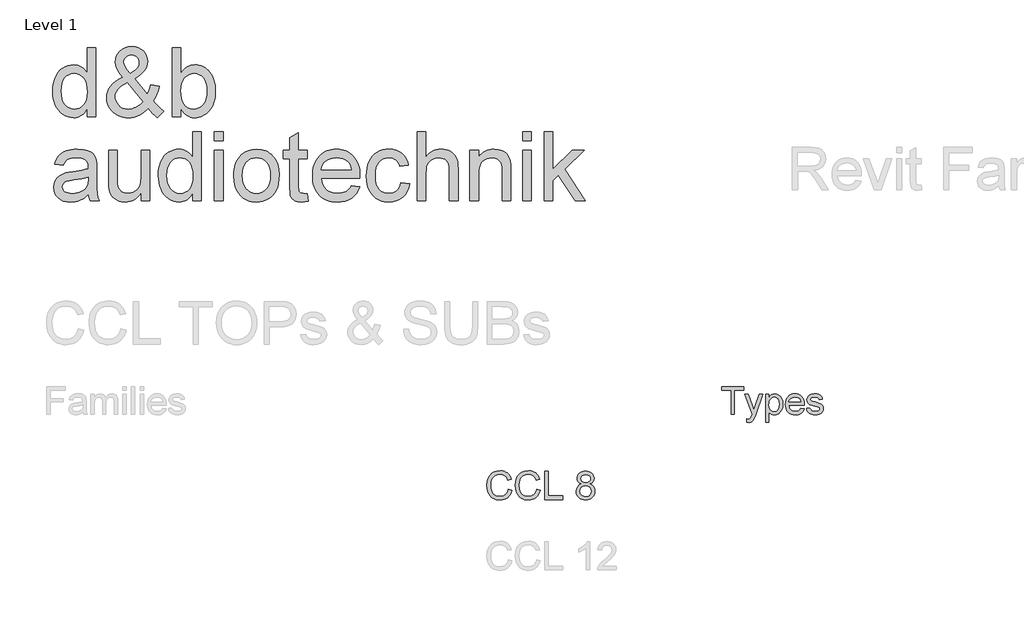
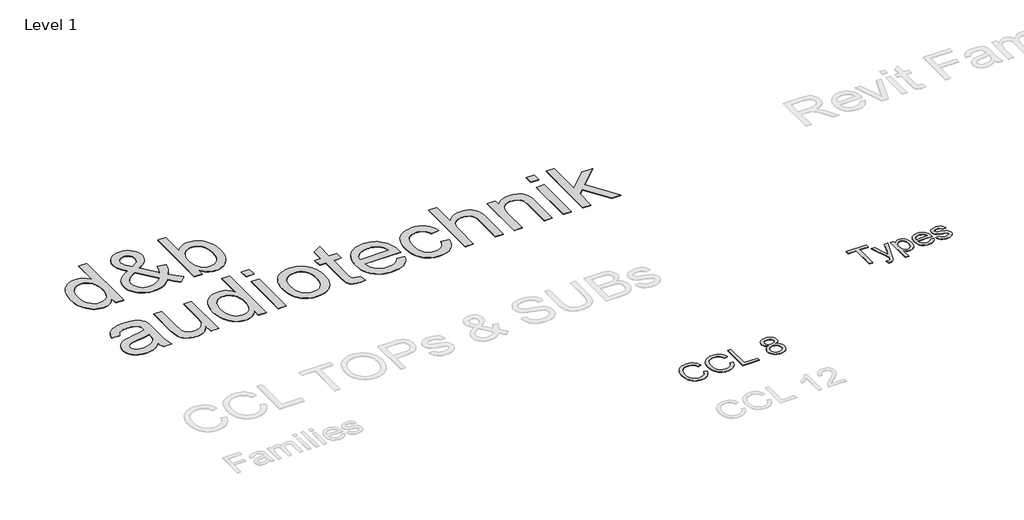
# One storey, part 24 of 31: 3 proxies.
"""IFC4 building model written with IfcOpenShell, lengths in millimetres."""

from ifc_helpers import new_model, si_unit, origin, origin_with_axes, place, context, project, spatial, polyline, outline, extrude, element, save

model = new_model("IFC4")

# Units and contexts
model_context = context("Model", 3, world=origin())
ifc_project = project(units=[si_unit("LENGTHUNIT", "METRE", prefix="MILLI")], contexts=[model_context])

# Site, building, storey
site = spatial("IfcSite", under=ifc_project)
building = spatial("IfcBuilding", under=site)
storey = spatial("IfcBuildingStorey", under=building, Name="Level 1", Elevation=0.0)

# Proxies
placement = place(None, origin())
element("IfcBuildingElementProxy", 1, Name="1000mm Arial", ObjectType="1000mm Arial", at=placement, inside=storey, context=model_context, shape_type="SweptSolid", body=[
    extrude(outline(polyline([(-20485.0918031, 21579.111869), (-20485.0918031, 21694.6019258), (-20502.4384754, 21663.947296), (-20521.720443, 21637.3799502), (-20542.937706, 21614.8998883), (-20566.0902643, 21596.5071105), (-20591.1781179, 21582.2016166), (-20618.2012669, 21571.9834066), (-20647.1597112, 21565.8524807), (-20678.0534508, 21563.8088387), (-20718.4630152, 21566.7678231), (-20757.1988107, 21575.6447762), (-20794.2608372, 21590.4396981), (-20829.6490948, 21611.1525887), (-20862.2577004, 21637.1632569), (-20890.9807709, 21667.8515115), (-20915.8183064, 21703.2173525), (-20936.7703069, 21743.26078), (-20953.4033857, 21787.2196312), (-20965.2841563, 21834.3317435), (-20972.4126187, 21884.597117), (-20974.7887728, 21938.0157516), (-20972.5994233, 21990.4555302), (-20966.0313746, 22040.4145442), (-20955.0846269, 22087.8927935), (-20939.75918, 22132.8902781), (-20920.0625062, 22174.0918939), (-20896.0020777, 22210.1825366), (-20867.5778945, 22241.1622064), (-20834.7899565, 22267.0309031), (-20798.7964521, 22287.429962), (-20760.7555697, 22302.0007184), (-20720.6673091, 22310.7431723), (-20678.5316705, 22313.6573235), (-20647.7163888, 22311.5725845), (-20618.6346535, 22305.3183676), (-20591.2864646, 22294.8946726), (-20565.671822, 22280.3014997), (-20542.0746689, 22262.3757332), (-20520.778948, 22241.9542577), (-20501.7846594, 22219.0370732), (-20485.0918031, 22193.6241796), (-20485.0918031, 22558.5058084), (-20362.6675607, 22558.5058084), (-20362.6675607, 21579.111869), (-20485.0918031, 21579.111869)]), holes=[polyline([(-20852.3645304, 21938.4939713), (-20848.9123819, 21879.1274792), (-20838.5559366, 21827.7562227), (-20821.2951944, 21784.3802017), (-20797.1301554, 21748.9994163), (-20768.2725855, 21721.5391447), (-20736.934251, 21701.9246649), (-20703.1151518, 21690.1559771), (-20666.815288, 21686.2330811), (-20630.3435639, 21689.9766447), (-20596.7262136, 21701.2073354), (-20565.9632372, 21719.9251532), (-20538.0546345, 21746.1300982), (-20514.8833958, 21780.0313914), (-20498.332511, 21821.8382539), (-20488.4019801, 21871.5506859), (-20485.0918031, 21929.1686872), (-20488.4617575, 21992.3385203), (-20498.5716208, 22046.5118453), (-20515.4213929, 22091.6886623), (-20539.0110739, 22127.8689713), (-20567.5323956, 22155.5907693), (-20599.1770896, 22175.3920537), (-20633.945156, 22187.2728242), (-20671.8365948, 22191.2330811), (-20708.8537882, 22187.4297401), (-20742.6728874, 22176.019717), (-20773.2938924, 22157.0030119), (-20800.7168031, 22130.3796247), (-20823.3126838, 22095.5667252), (-20839.4525986, 22051.9814831), (-20849.1365474, 21999.6238985), (-20852.3645304, 21938.4939713)])]), origin_with_axes(), (0.0, 0.0, 1.0), 5.0),
    extrude(outline(polyline([(-19617.362163, 21700.1014523), (-19647.8038355, 21668.157871), (-19679.590501, 21640.4734339), (-19712.7221594, 21617.0481409), (-19747.1988107, 21597.8819921), (-19783.0503436, 21582.9749875), (-19820.3066469, 21572.327127), (-19858.9677205, 21565.9384108), (-19899.0335645, 21563.8088387), (-19935.7219818, 21565.3854693), (-19970.4676317, 21570.1153609), (-20003.270514, 21577.9985138), (-20034.1306289, 21589.0349277), (-20063.0479762, 21603.2246028), (-20090.0225559, 21620.567539), (-20115.0543682, 21641.0637363), (-20138.143413, 21664.7131948), (-20169.42197, 21707.0505823), (-20191.7637965, 21751.8089571), (-20205.1688924, 21798.988319), (-20209.6372577, 21848.5886682), (-20206.0431377, 21892.569936), (-20195.260778, 21934.3693264), (-20177.2901785, 21973.9868394), (-20152.1313391, 22011.4224751), (-20119.829093, 22046.661289), (-20080.4282733, 22079.6883368), (-20033.9288799, 22110.5036185), (-19980.330913, 22139.1071341), (-20033.7420754, 22208.2098804), (-20065.8126838, 22262.9660357), (-20081.8629324, 22309.712011), (-20087.2130152, 22354.7842175), (-20082.9987041, 22397.569936), (-20070.3557709, 22437.4564476), (-20049.2842155, 22474.4437523), (-20019.784038, 22508.5318501), (-19983.9026163, 22537.0905326), (-19943.6873287, 22557.4895915), (-19899.138175, 22569.7290269), (-19850.2551554, 22573.8088387), (-19803.5839018, 22569.9083593), (-19761.3660692, 22558.2069211), (-19723.6016575, 22538.7045241), (-19690.2906667, 22511.4011682), (-19663.0919215, 22478.6281746), (-19643.6642463, 22442.7168643), (-19632.0076412, 22403.6672371), (-19628.1221061, 22361.4792932), (-19630.9988965, 22326.7336434), (-19639.6292676, 22293.273209), (-19654.0132194, 22261.09799), (-19674.150752, 22230.2079864), (-19700.0418653, 22200.6031983), (-19731.6865593, 22172.2836256), (-19769.084834, 22145.2492684), (-19812.2366895, 22119.5001266), (-19635.0562917, 21898.8017364), (-19604.8686734, 21961.866959), (-19582.2130152, 22034.3770205), (-19459.7887728, 22007.8358273), (-19477.213903, 21947.9836434), (-19497.4485739, 21894.4379817), (-19520.4927856, 21847.1988422), (-19546.346538, 21806.2662251), (-19512.6320493, 21763.9138931), (-19476.765572, 21725.0884315), (-19438.7471061, 21689.7898401), (-19398.5766516, 21658.018119), (-19490.3948334, 21563.8088387), (-19521.3745032, 21589.6327023), (-19552.8622813, 21620.9560925), (-19617.362163, 21700.1014523)]), holes=[polyline([(-19874.1661402, 22196.7326076), (-19810.1444783, 22237.3513931), (-19788.4004264, 22255.6657131), (-19773.500894, 22272.6499845), (-19756.2849849, 22306.9921365), (-19750.5463486, 22344.7416038), (-19752.4368108, 22367.2104574), (-19758.1081975, 22387.512378), (-19767.5605087, 22405.6473656), (-19780.7937444, 22421.6154201), (-19796.8664095, 22434.6394347), (-19814.8370091, 22443.9423022), (-19834.705543, 22449.5240228), (-19856.4720114, 22451.3845963), (-19878.7017552, 22449.5389671), (-19899.0036757, 22444.0020797), (-19917.3777732, 22434.773934), (-19933.8240474, 22421.85453), (-19947.3711148, 22406.2750289), (-19957.0475915, 22389.066592), (-19962.8534775, 22370.2292193), (-19964.7887728, 22349.7629107), (-19962.1585645, 22327.9142483), (-19954.2679395, 22304.9298141), (-19941.0571203, 22280.6900532), (-19922.4663296, 22255.0754107), (-19874.1661402, 22196.7326076)]), polyline([(-19699.376841, 21788.3329864), (-19917.9232425, 22061.1573235), (-19963.7202507, 22034.0333001), (-20001.4024684, 22007.8956048), (-20030.9698956, 21982.7442376), (-20052.4225323, 21958.5791985), (-20067.6433686, 21934.967101), (-20078.5153945, 21911.4745584), (-20085.03861, 21888.1015707), (-20087.2130152, 21864.8481379), (-20084.2390865, 21836.2446223), (-20075.3173003, 21807.1031095), (-20060.4476566, 21777.4235996), (-20039.6301554, 21747.2060925), (-20013.3579608, 21720.5304), (-19982.1242368, 21701.476334), (-19945.9289835, 21690.0438943), (-19904.7722008, 21686.2330811), (-19877.2969848, 21688.0114606), (-19849.3883822, 21693.3465991), (-19821.0463929, 21702.2384966), (-19792.2710171, 21714.6871531), (-19764.7210793, 21729.9602947), (-19740.055404, 21747.3256474), (-19718.2739912, 21766.7832113), (-19699.376841, 21788.3329864)])]), origin_with_axes(), (0.0, 0.0, 1.0), 5.0),
    extrude(outline(polyline([(-19153.7281667, 21579.111869), (-19276.1524092, 21579.111869), (-19276.1524092, 22558.5058084), (-19153.7281667, 22558.5058084), (-19153.7281667, 22195.2979485), (-19134.2481863, 22223.0384271), (-19113.468046, 22247.0801751), (-19091.3877459, 22267.4231927), (-19068.0072861, 22284.0674798), (-19043.3266664, 22297.0130364), (-19017.3458869, 22306.2598626), (-18990.0649476, 22311.8079583), (-18961.4838486, 22313.6573235), (-18929.5178507, 22311.9910268), (-18898.418626, 22306.9921365), (-18868.1861746, 22298.6606527), (-18838.8204963, 22286.9965754), (-18811.1734201, 22272.3137363), (-18786.0967747, 22254.925967), (-18763.5905602, 22234.8332675), (-18743.6547766, 22212.0356379), (-18710.3886189, 22158.7440305), (-18685.1924186, 22095.4695868), (-18669.3215024, 22024.8425153), (-18664.031197, 21949.4930243), (-18669.508307, 21862.5467056), (-18676.3546945, 21822.9964423), (-18685.9396369, 21786.0614429), (-18698.2631343, 21751.7417074), (-18713.3251867, 21720.0372359), (-18731.1257941, 21690.9480284), (-18751.6649565, 21664.4740849), (-18797.6861302, 21620.4330397), (-18822.3499374, 21603.1312005), (-18848.1158916, 21588.9751502), (-18874.9839928, 21577.9648889), (-18902.954241, 21570.1004166), (-18932.0266361, 21565.3817332), (-18962.2011781, 21563.8088387), (-18991.8694798, 21565.8375363), (-19019.9013734, 21571.9236292), (-19046.296859, 21582.0671173), (-19071.0559366, 21596.2680006), (-19094.1786062, 21614.5262792), (-19115.6648677, 21636.841953), (-19135.5147213, 21663.2150221), (-19153.7281667, 21693.6454864), (-19153.7281667, 21579.111869)]), holes=[polyline([(-19153.7281667, 21943.7543879), (-19151.6359556, 21888.5797904), (-19145.359322, 21841.6544826), (-19134.8982662, 21802.9784646), (-19120.252788, 21772.5517364), (-19090.5882224, 21734.7873247), (-19056.1115711, 21707.8127449), (-19016.8228341, 21691.6279971), (-18972.7220114, 21686.2330811), (-18936.1083159, 21690.2082823), (-18902.0650512, 21702.133886), (-18870.5922174, 21722.0098922), (-18841.6898145, 21749.8363008), (-18817.5247754, 21785.5383901), (-18800.2640332, 21829.0414381), (-18789.9075879, 21880.345445), (-18786.4554395, 21939.4504107), (-18789.7656164, 21999.6762037), (-18799.6961473, 22051.4733747), (-18816.2470322, 22094.8419234), (-18839.4182709, 22129.7818501), (-18867.2820404, 22156.6667636), (-18897.9105176, 22175.8702733), (-18931.3037024, 22187.3923792), (-18967.4615948, 22191.2330811), (-19004.0752903, 22187.2578799), (-19038.118555, 22175.3322762), (-19069.5913888, 22155.45627), (-19098.4937917, 22127.6298614), (-19122.6588308, 22092.2864369), (-19139.919573, 22049.8593832), (-19150.2760183, 22000.3487002), (-19153.7281667, 21943.7543879)])]), origin_with_axes(), (0.0, 0.0, 1.0), 5.0),
    extrude(outline(polyline([(-20469.7887728, 20473.9603538), (-20498.8182028, 20446.7167755), (-20528.2810195, 20423.8070631), (-20558.1772227, 20405.2312168), (-20588.5068126, 20390.9892364), (-20619.6135094, 20380.42357), (-20651.8410337, 20372.8766654), (-20719.6585645, 20366.8391417), (-20774.1681377, 20370.4706225), (-20821.9676909, 20381.365065), (-20863.0572239, 20399.5224691), (-20897.4367368, 20424.9428349), (-20924.5831768, 20456.0121708), (-20943.9734911, 20491.1164855), (-20955.6076796, 20530.2557788), (-20959.4857425, 20573.4300508), (-20953.6275512, 20624.1811162), (-20936.0529773, 20670.2695394), (-20908.9438983, 20709.7226644), (-20874.4821914, 20740.5678349), (-20833.9829608, 20763.8810451), (-20788.7613107, 20780.7382894), (-20744.7053211, 20790.123351), (-20682.8356478, 20799.1497478), (-20557.6616421, 20818.5176455), (-20509.331564, 20829.4569211), (-20470.5061023, 20841.2330811), (-20469.7887728, 20868.4916038), (-20471.8959283, 20898.1711138), (-20478.217395, 20923.1282042), (-20488.7531727, 20943.3628751), (-20503.5032614, 20958.8751266), (-20528.998349, 20974.3574893), (-20560.0527406, 20985.4163198), (-20596.6664362, 20992.051618), (-20638.8394357, 20994.2633841), (-20678.0534508, 20992.7913641), (-20711.7679395, 20988.3753041), (-20739.9829016, 20981.0152041), (-20762.6983372, 20970.7110641), (-20781.3638497, 20956.6558883), (-20797.4290427, 20938.042681), (-20810.893916, 20914.8714423), (-20821.7584698, 20887.142172), (-20944.1827122, 20902.4452023), (-20934.8649003, 20937.713905), (-20922.9318244, 20969.3959599), (-20908.3834846, 20997.4913671), (-20891.2198808, 21022.0001266), (-20870.7012669, 21043.4154024), (-20846.0878969, 21062.2303586), (-20817.3797707, 21078.4449952), (-20784.5768883, 21092.0593122), (-20748.3442741, 21102.8341997), (-20709.3469523, 21110.530548), (-20667.5849228, 21115.1483569), (-20623.0581857, 21116.6876266), (-20540.2962894, 21111.2478775), (-20505.3488906, 21104.4481912), (-20474.6905247, 21094.9286304), (-20425.2246748, 21070.3899822), (-20406.1631366, 21056.0359191), (-20390.8825228, 21040.29203), (-20368.1073097, 21003.0805598), (-20353.3422766, 20957.2013576), (-20348.8589669, 20914.8789144), (-20347.3645304, 20850.0801455), (-20347.3645304, 20697.767172), (-20345.8103164, 20565.0910948), (-20341.1476743, 20485.0789618), (-20331.9419452, 20432.5046839), (-20316.7584698, 20382.142172), (-20439.1827122, 20382.142172), (-20458.7897198, 20424.7037251), (-20469.7887728, 20473.9603538)]), holes=[polyline([(-20469.7887728, 20718.8088387), (-20552.0425607, 20698.4247241), (-20667.2935077, 20681.2685925), (-20730.8070612, 20671.8835309), (-20772.6213959, 20661.4224751), (-20800.0293623, 20647.8529912), (-20820.3238107, 20629.1426455), (-20832.8770777, 20606.7260972), (-20837.0615001, 20582.0380054), (-20834.7824843, 20563.013828), (-20827.9454371, 20545.6335309), (-20816.5503584, 20529.897114), (-20800.5972482, 20515.8045773), (-20780.2355501, 20504.1928053), (-20755.6147079, 20495.8986824), (-20726.7347215, 20490.9222087), (-20693.595591, 20489.2633841), (-20659.7615474, 20491.0940689), (-20627.8403827, 20496.5861233), (-20597.8320967, 20505.7395471), (-20569.7366895, 20518.5543406), (-20544.3910455, 20533.9694536), (-20522.6320493, 20550.9238363), (-20504.4597008, 20569.4174887), (-20489.8740001, 20589.4504107), (-20481.4005448, 20607.3836493), (-20475.3480768, 20629.1426455), (-20470.5061023, 20684.1379107), (-20469.7887728, 20718.8088387)])]), origin_with_axes(), (0.0, 0.0, 1.0), 5.0),
    extrude(outline(polyline([(-19719.940288, 20382.142172), (-19719.940288, 20505.7619637), (-19741.1762314, 20473.2019273), (-19764.2353874, 20444.9832291), (-19789.117756, 20421.1058691), (-19815.8233372, 20401.5698472), (-19844.352131, 20386.3751636), (-19874.7041374, 20375.5218181), (-19906.8793564, 20369.0098108), (-19940.877788, 20366.8391417), (-20000.5058064, 20372.9364429), (-20028.7730738, 20380.5580693), (-20056.00918, 20391.2283463), (-20102.575823, 20418.7259788), (-20120.7033384, 20434.8061162), (-20135.3936497, 20452.4404675), (-20157.4814219, 20493.388029), (-20171.8579016, 20542.5848804), (-20177.2378732, 20588.972191), (-20179.031197, 20656.4011682), (-20179.031197, 21101.3845963), (-20056.6069546, 21101.3845963), (-20056.6069546, 20714.0266417), (-20054.7538533, 20636.5550508), (-20049.1945493, 20589.2113008), (-20041.864338, 20567.1459451), (-20031.3509769, 20547.5762984), (-20017.6544659, 20530.5023608), (-20000.774805, 20515.9241323), (-19981.2201027, 20504.260055), (-19959.4984674, 20495.9285712), (-19935.6098991, 20490.9296809), (-19909.5543978, 20489.2633841), (-19882.7217895, 20490.9670418), (-19856.74101, 20496.0780148), (-19831.6120594, 20504.5963032), (-19807.3349376, 20516.5219069), (-19785.2247488, 20531.3840784), (-19766.5965971, 20548.7120702), (-19751.4504827, 20568.5058824), (-19739.7864054, 20590.7655148), (-19731.103729, 20616.9106823), (-19724.9018173, 20648.3610996), (-19719.940288, 20727.1776834), (-19719.940288, 21101.3845963), (-19597.5160455, 21101.3845963), (-19597.5160455, 20382.142172), (-19719.940288, 20382.142172)])), origin_with_axes(), (0.0, 0.0, 1.0), 5.0),
    extrude(outline(polyline([(-18985.3948334, 20382.142172), (-18985.3948334, 20497.6322288), (-19002.7415057, 20466.977599), (-19022.0234733, 20440.4102532), (-19043.2407363, 20417.9301914), (-19066.3932946, 20399.5374135), (-19091.4811482, 20385.2319196), (-19118.5042972, 20375.0137097), (-19147.4627415, 20368.8827837), (-19178.3564811, 20366.8391417), (-19218.7660455, 20369.7981261), (-19257.501841, 20378.6750792), (-19294.5638675, 20393.4700011), (-19329.9521251, 20414.1828917), (-19362.5607307, 20440.1935599), (-19391.2838012, 20470.8818145), (-19416.1213367, 20506.2476556), (-19437.0733372, 20546.291083), (-19453.706416, 20590.2499342), (-19465.5871866, 20637.3620466), (-19472.715649, 20687.62742), (-19475.0918031, 20741.0460546), (-19472.9024536, 20793.4858332), (-19466.3344049, 20843.4448472), (-19455.3876572, 20890.9230965), (-19440.0622103, 20935.9205811), (-19420.3655365, 20977.1221969), (-19396.305108, 21013.2128396), (-19367.8809248, 21044.1925094), (-19335.0929868, 21070.0612061), (-19299.0994824, 21090.4602651), (-19261.0586, 21105.0310215), (-19220.9703394, 21113.7734753), (-19178.8347008, 21116.6876266), (-19148.0194191, 21114.6028876), (-19118.9376838, 21108.3486706), (-19091.5894949, 21097.9249756), (-19065.9748523, 21083.3318027), (-19042.3776992, 21065.4060363), (-19021.0819783, 21044.9845608), (-19002.0876897, 21022.0673762), (-18985.3948334, 20996.6544826), (-18985.3948334, 21361.5361114), (-18862.970591, 21361.5361114), (-18862.970591, 20382.142172), (-18985.3948334, 20382.142172)]), holes=[polyline([(-19352.6675607, 20741.5242743), (-19349.2154122, 20682.1577822), (-19338.8589669, 20630.7865257), (-19321.5982247, 20587.4105048), (-19297.4331857, 20552.0297194), (-19268.5756158, 20524.5694477), (-19237.2372813, 20504.954968), (-19203.4181821, 20493.1862801), (-19167.1183183, 20489.2633841), (-19130.6465942, 20493.0069477), (-19097.0292439, 20504.2376384), (-19066.2662675, 20522.9554562), (-19038.3576648, 20549.1604012), (-19015.1864261, 20583.0616944), (-18998.6355413, 20624.868557), (-18988.7050104, 20674.5809889), (-18985.3948334, 20732.1989902), (-18988.7647878, 20795.3688233), (-18998.8746511, 20849.5421483), (-19015.7244233, 20894.7189653), (-19039.3141042, 20930.8992743), (-19067.8354259, 20958.6210724), (-19099.4801199, 20978.4223567), (-19134.2481863, 20990.3031273), (-19172.1396251, 20994.2633841), (-19209.1568185, 20990.4600431), (-19242.9759177, 20979.05002), (-19273.5969227, 20960.0333149), (-19301.0198334, 20933.4099277), (-19323.6157141, 20898.5970282), (-19339.7556289, 20855.0117861), (-19349.4395777, 20802.6542015), (-19352.6675607, 20741.5242743)])]), origin_with_axes(), (0.0, 0.0, 1.0), 5.0),
    extrude(outline(polyline([(-18679.3342273, 20382.142172), (-18679.3342273, 21101.3845963), (-18556.9099849, 21101.3845963), (-18556.9099849, 20382.142172), (-18679.3342273, 20382.142172)])), origin_with_axes(), (0.0, 0.0, 1.0), 5.0),
    extrude(outline(polyline([(-18679.3342273, 21239.111869), (-18679.3342273, 21361.5361114), (-18556.9099849, 21361.5361114), (-18556.9099849, 21239.111869), (-18679.3342273, 21239.111869)])), origin_with_axes(), (0.0, 0.0, 1.0), 5.0),
    extrude(outline(polyline([(-18403.8796819, 20741.7633841), (-18402.2245934, 20789.9477547), (-18397.259328, 20834.9116145), (-18388.9838856, 20876.6549635), (-18377.3982662, 20915.1778018), (-18362.5024698, 20950.4801292), (-18344.2964965, 20982.5619459), (-18322.7803463, 21011.4232519), (-18297.954019, 21037.064047), (-18251.2977098, 21071.8993631), (-18199.7994262, 21096.7817317), (-18143.4591682, 21111.7111528), (-18082.2769357, 21116.6876266), (-18014.7358757, 21110.6276863), (-17983.391937, 21103.0527611), (-17953.6657259, 21092.4478657), (-17925.5572424, 21078.8130002), (-17899.0664865, 21062.1481646), (-17874.1934581, 21042.4533588), (-17850.9381573, 21019.728583), (-17829.8946226, 20994.3325018), (-17811.6568925, 20966.6237801), (-17796.224967, 20936.6024178), (-17783.5988462, 20904.2684149), (-17773.77853, 20869.6217715), (-17766.7640184, 20832.6624875), (-17761.1524092, 20751.8059978), (-17763.6331738, 20686.2749549), (-17771.0754679, 20628.1264287), (-17783.4792913, 20577.3604189), (-17800.844644, 20533.9769258), (-17822.9548328, 20496.5039292), (-17849.5931644, 20463.4694092), (-17880.7596387, 20434.8733658), (-17916.4542558, 20410.7157989), (-17955.2871896, 20391.5197614), (-17995.8686142, 20377.808306), (-18038.1985295, 20369.5814328), (-18082.2769357, 20366.8391417), (-18150.8043238, 20372.8766654), (-18182.4845107, 20380.42357), (-18212.4423594, 20390.9892364), (-18240.6778701, 20404.5736647), (-18267.1910426, 20421.1768548), (-18291.9818769, 20440.7988067), (-18315.0503732, 20463.4395205), (-18335.8697424, 20488.9196637), (-18353.9131957, 20517.059904), (-18369.1807332, 20547.8602414), (-18381.6723547, 20581.3206758), (-18391.3880604, 20617.4412073), (-18398.3278501, 20656.2218358), (-18403.8796819, 20741.7633841)]), holes=[polyline([(-18281.4554395, 20742.002494), (-18277.9136248, 20682.6210576), (-18267.2881809, 20631.204968), (-18249.5791078, 20587.7542252), (-18224.7864054, 20552.2688292), (-18194.6286757, 20524.703947), (-18160.8245209, 20505.0147454), (-18123.3739409, 20493.2012245), (-18082.2769357, 20489.2633841), (-18041.3891516, 20493.223641), (-18004.0880152, 20505.1044116), (-17970.3735266, 20524.9056959), (-17940.2456857, 20552.627494), (-17915.4529833, 20588.4640825), (-17897.7439101, 20632.6097383), (-17887.1184662, 20685.0644613), (-17883.5766516, 20745.8282516), (-17887.1408828, 20803.3266979), (-17897.8335763, 20853.3977947), (-17915.6547322, 20896.0415417), (-17940.6043505, 20931.2579391), (-17970.8442741, 20958.8228213), (-18004.5363462, 20978.5120229), (-18041.6805667, 20990.3255438), (-18082.2769357, 20994.2633841), (-18123.3739409, 20990.3404882), (-18160.8245209, 20978.5718003), (-18194.6286757, 20958.9573206), (-18224.7864054, 20931.4970489), (-18249.5791078, 20896.1162635), (-18267.2881809, 20852.7402426), (-18277.9136248, 20801.3689861), (-18281.4554395, 20742.002494)])]), origin_with_axes(), (0.0, 0.0, 1.0), 5.0),
    extrude(outline(polyline([(-17363.2736213, 20484.2420773), (-17347.970591, 20378.5555243), (-17396.4501128, 20369.7682374), (-17439.549663, 20366.8391417), (-17498.3109082, 20371.920226), (-17522.0873938, 20378.2715814), (-17542.127788, 20387.1634788), (-17573.0925133, 20410.6560215), (-17593.2972955, 20440.4849751), (-17599.7831502, 20461.5415861), (-17604.4159035, 20491.7142601), (-17608.1221061, 20579.407797), (-17608.1221061, 20978.9603538), (-17699.940288, 20978.9603538), (-17699.940288, 21101.3845963), (-17608.1221061, 21101.3845963), (-17608.1221061, 21276.1738955), (-17485.6978637, 21348.1459599), (-17485.6978637, 21101.3845963), (-17363.2736213, 21101.3845963), (-17363.2736213, 20978.9603538), (-17485.6978637, 20978.9603538), (-17485.6978637, 20582.9944448), (-17484.0838722, 20542.7044353), (-17479.2418978, 20519.8694448), (-17470.7833869, 20507.2265115), (-17458.3197861, 20497.5126739), (-17440.655546, 20491.3257066), (-17416.5951175, 20489.2633841), (-17363.2736213, 20484.2420773)])), origin_with_axes(), (0.0, 0.0, 1.0), 5.0),
    extrude(outline(polyline([(-16737.284038, 20596.3845963), (-16617.250894, 20581.081566), (-16635.6548802, 20533.0055421), (-16660.4998879, 20490.6382658), (-16691.7859171, 20453.9797371), (-16729.5129679, 20423.0299561), (-16773.2924867, 20398.4464748), (-16822.7359201, 20380.8868453), (-16877.8432679, 20370.3510676), (-16938.6145304, 20366.8391417), (-16977.6305327, 20368.3541268), (-17014.5767404, 20372.8990819), (-17049.4531534, 20380.4740072), (-17082.2597719, 20391.0789026), (-17112.9965957, 20404.7137681), (-17141.6636248, 20421.3786037), (-17168.2608594, 20441.0734094), (-17192.7882993, 20463.7981853), (-17214.812558, 20489.25778), (-17233.9002489, 20517.1570424), (-17250.0513719, 20547.4959725), (-17263.2659272, 20580.2745702), (-17273.5439146, 20615.4928356), (-17280.8853341, 20653.1507687), (-17286.7584698, 20735.7856379), (-17280.8255567, 20821.2225757), (-17273.4094153, 20860.1414396), (-17263.0268173, 20896.5272336), (-17249.6777628, 20930.3799576), (-17233.3622517, 20961.6996117), (-17214.0802841, 20990.4861958), (-17191.8318599, 21016.7397099), (-17167.2184899, 21040.1650029), (-17140.8416847, 21060.4669234), (-17112.7014444, 21077.6454716), (-17082.797769, 21091.7006474), (-17051.1306585, 21102.6324508), (-17017.7001128, 21110.4408818), (-16982.5061319, 21115.1259404), (-16945.548716, 21116.6876266), (-16909.7999256, 21115.1296765), (-16875.721168, 21110.4558261), (-16843.3124433, 21102.6660756), (-16812.5737515, 21091.7604249), (-16783.5050925, 21077.7388739), (-16756.1064663, 21060.6014227), (-16730.377873, 21040.3480713), (-16706.3193126, 21016.9788198), (-16684.54724, 20990.7850831), (-16665.6781105, 20962.0582764), (-16649.711924, 20930.7983998), (-16636.6486805, 20897.0054533), (-16626.48838, 20860.6794368), (-16619.2310224, 20821.8203503), (-16613.4251364, 20736.5029675), (-16614.142466, 20703.5058084), (-17164.3342273, 20703.5058084), (-17157.2431259, 20654.6526775), (-17143.143117, 20611.866959), (-17122.0342007, 20575.1486528), (-17093.916377, 20544.4977591), (-17060.3438598, 20520.3327201), (-17022.8708632, 20503.0719779), (-16981.4973873, 20492.7155326), (-16936.2234319, 20489.2633841), (-16902.3594996, 20490.8624313), (-16871.0659982, 20495.6595726), (-16842.3429276, 20503.6548082), (-16816.190288, 20514.8481379), (-16792.6080791, 20529.5384492), (-16771.5963012, 20548.0246294), (-16753.1549541, 20570.3066784), (-16737.284038, 20596.3845963)]), holes=[polyline([(-17164.3342273, 20825.9300508), (-16735.8493789, 20825.9300508), (-16742.1409568, 20860.5710901), (-16752.4077359, 20890.6092648), (-16766.6497162, 20916.044575), (-16784.8668978, 20936.8770205), (-16818.2526104, 20961.9835546), (-16856.2411876, 20979.9167932), (-16898.8326293, 20990.6767364), (-16946.0269357, 20994.2633841), (-16989.0741806, 20991.4015381), (-17028.5497221, 20982.8160001), (-17064.4535603, 20968.5067702), (-17096.7856952, 20948.4738482), (-17123.9171908, 20923.6437848), (-17144.2191113, 20894.9431308), (-17157.6914569, 20862.3718862), (-17164.3342273, 20825.9300508)])]), origin_with_axes(), (0.0, 0.0, 1.0), 5.0),
    extrude(outline(polyline([(-16031.9099849, 20642.2936872), (-15909.4857425, 20626.9906569), (-15922.8011722, 20569.2232119), (-15943.6186734, 20518.1060096), (-15971.9382461, 20473.63905), (-16007.7598902, 20435.822333), (-16049.574225, 20405.6421868), (-16095.8718694, 20384.0849395), (-16146.6528235, 20371.1505912), (-16201.9170872, 20366.8391417), (-16270.5789746, 20372.8542488), (-16302.2479532, 20380.3731328), (-16332.1422884, 20390.8995702), (-16360.2619802, 20404.4335613), (-16386.6070286, 20420.9751059), (-16411.1774336, 20440.524204), (-16433.9731952, 20463.0808557), (-16454.5123575, 20488.4470482), (-16472.3129649, 20516.4247685), (-16487.3750173, 20547.0140167), (-16499.6985148, 20580.2147928), (-16509.2834572, 20616.0270967), (-16516.1298447, 20654.4509285), (-16521.6069546, 20739.1331758), (-16519.2681614, 20795.4211286), (-16512.2517818, 20848.0776005), (-16500.5578158, 20897.1025916), (-16484.1862633, 20942.4961019), (-16463.0250417, 20983.3465251), (-16436.9620683, 21018.7422549), (-16405.9973429, 21048.6832912), (-16370.1308656, 21073.1696341), (-16330.9841001, 21092.2087558), (-16290.17851, 21105.8081285), (-16247.7140954, 21113.967752), (-16203.5908561, 21116.6876266), (-16149.2755596, 21112.9515352), (-16100.1459579, 21101.743261), (-16056.2020511, 21083.0628041), (-16017.4438391, 21056.9101644), (-15984.528874, 21023.8831166), (-15958.1147079, 20984.5794353), (-15938.2013409, 20938.9991204), (-15924.7887728, 20887.142172), (-16047.2130152, 20871.8391417), (-16056.769937, 20900.4351852), (-16069.4203424, 20925.2503041), (-16085.1642315, 20946.2844986), (-16104.0016042, 20963.5377686), (-16125.454241, 20976.9802254), (-16149.0439219, 20986.5819803), (-16174.7706472, 20992.3430332), (-16202.6344167, 20994.2633841), (-16244.2320582, 20990.4824597), (-16281.7498879, 20979.1396862), (-16315.1879057, 20960.2350638), (-16344.5461118, 20933.7685925), (-16368.4496245, 20899.1275532), (-16385.5235621, 20855.6992269), (-16395.7679247, 20803.4836138), (-16399.1827122, 20742.4807137), (-16395.8426465, 20680.5587351), (-16385.8224494, 20627.7378751), (-16369.1221209, 20584.0181338), (-16345.7416611, 20549.399511), (-16316.9662852, 20523.0899555), (-16284.0812089, 20504.2974159), (-16247.086432, 20493.0218921), (-16205.9819546, 20489.2633841), (-16172.8577684, 20491.6096495), (-16142.587956, 20498.6484457), (-16115.1725175, 20510.3797726), (-16090.6114527, 20526.8036304), (-16069.5922026, 20548.0993512), (-16052.8022079, 20574.4462677), (-16040.2414687, 20605.8443796), (-16031.9099849, 20642.2936872)])), origin_with_axes(), (0.0, 0.0, 1.0), 5.0),
    extrude(outline(polyline([(-15802.3645304, 20382.142172), (-15802.3645304, 21361.5361114), (-15679.940288, 21361.5361114), (-15679.940288, 21001.4366796), (-15658.1476669, 21028.4486203), (-15634.9726921, 21051.8589689), (-15610.4153634, 21071.6677254), (-15584.4756809, 21087.8748898), (-15557.1536447, 21100.4804622), (-15528.4492546, 21109.4844424), (-15498.3625107, 21114.8868305), (-15466.893413, 21116.6876266), (-15428.6208928, 21114.7224425), (-15392.9486923, 21108.8268903), (-15359.8768114, 21099.00097), (-15329.4052501, 21085.2446815), (-15302.3111154, 21068.0213002), (-15279.3715143, 21047.7941015), (-15260.5864468, 21024.5630853), (-15245.955913, 20998.3282516), (-15234.9718043, 20967.4681367), (-15227.1260124, 20930.3612771), (-15222.4185372, 20887.0076727), (-15220.8493789, 20837.4073235), (-15220.8493789, 20382.142172), (-15343.2736213, 20382.142172), (-15343.2736213, 20824.7345016), (-15345.7095529, 20866.0706166), (-15353.0173476, 20901.369208), (-15365.1970055, 20930.6302757), (-15382.2485266, 20953.8538198), (-15403.768413, 20971.5330042), (-15429.3531667, 20984.160993), (-15459.002788, 20991.7377864), (-15492.7172766, 20994.2633841), (-15518.981999, 20992.5597265), (-15544.4546701, 20987.4487535), (-15569.1352897, 20978.9304651), (-15593.023858, 20967.0048614), (-15614.8276873, 20952.1651064), (-15633.25409, 20934.9043643), (-15648.3030661, 20915.2226349), (-15659.9746156, 20893.1199182), (-15668.7095973, 20867.5799975), (-15674.9488699, 20837.5866559), (-15679.940288, 20764.2397099), (-15679.940288, 20382.142172), (-15802.3645304, 20382.142172)])), origin_with_axes(), (0.0, 0.0, 1.0), 5.0),
    extrude(outline(polyline([(-15052.5160455, 20382.142172), (-15052.5160455, 21101.3845963), (-14930.0918031, 21101.3845963), (-14930.0918031, 21000.9584599), (-14909.8944931, 21028.0824833), (-14887.5601388, 21051.5899703), (-14863.0887403, 21071.4809208), (-14836.4802974, 21087.7553349), (-14807.7348103, 21100.4132125), (-14776.852279, 21109.4545537), (-14743.8327033, 21114.8793583), (-14708.6760834, 21116.6876266), (-14648.3307354, 21110.859324), (-14593.0664717, 21093.3744163), (-14568.3634354, 21080.8062049), (-14546.9780484, 21066.4147809), (-14528.9103104, 21050.2001443), (-14514.1602217, 21032.1622951), (-14491.893117, 20990.7066251), (-14477.4568599, 20942.1374372), (-14472.6148855, 20895.6903491), (-14471.000894, 20823.7780622), (-14471.000894, 20382.142172), (-14593.4251364, 20382.142172), (-14593.4251364, 20807.2794826), (-14596.9520067, 20870.583815), (-14607.5326175, 20915.596244), (-14615.9388231, 20932.6253485), (-14627.0499589, 20947.8461848), (-14657.3870209, 20972.8630527), (-14696.27226, 20988.9133013), (-14741.4341327, 20994.2633841), (-14778.6082419, 20991.2595667), (-14813.1371985, 20982.2481143), (-14845.0210023, 20967.2290269), (-14874.2596535, 20946.2023046), (-14898.6862189, 20916.7768489), (-14916.1337657, 20876.5615612), (-14926.6022938, 20825.5564417), (-14930.0918031, 20763.7614902), (-14930.0918031, 20382.142172), (-15052.5160455, 20382.142172)])), origin_with_axes(), (0.0, 0.0, 1.0), 5.0),
    extrude(outline(polyline([(-14302.6675607, 20382.142172), (-14302.6675607, 21101.3845963), (-14180.2433183, 21101.3845963), (-14180.2433183, 20382.142172), (-14302.6675607, 20382.142172)])), origin_with_axes(), (0.0, 0.0, 1.0), 5.0),
    extrude(outline(polyline([(-14302.6675607, 21239.111869), (-14302.6675607, 21361.5361114), (-14180.2433183, 21361.5361114), (-14180.2433183, 21239.111869), (-14302.6675607, 21239.111869)])), origin_with_axes(), (0.0, 0.0, 1.0), 5.0),
    extrude(outline(polyline([(-13996.6069546, 20382.142172), (-13996.6069546, 21361.5361114), (-13874.1827122, 21361.5361114), (-13874.1827122, 20835.2553349), (-13599.6846061, 21101.3845963), (-13430.3948334, 21101.3845963), (-13708.2404773, 20831.907797), (-13415.0918031, 20382.142172), (-13558.0794925, 20382.142172), (-13795.9937917, 20746.784691), (-13874.1827122, 20670.986869), (-13874.1827122, 20382.142172), (-13996.6069546, 20382.142172)])), origin_with_axes(), (0.0, 0.0, 1.0), 5.0),
])
element("IfcBuildingElementProxy", 2, Name="400mm Arial", ObjectType="400mm Arial", at=placement, inside=storey, context=model_context, shape_type="SweptSolid", body=[
    extrude(outline(polyline([(-11345.9583027, 17351.3054836), (-11345.9583027, 17694.0933624), (-11474.5037572, 17694.0933624), (-11474.5037572, 17743.0630593), (-11168.4431512, 17743.0630593), (-11168.4431512, 17694.0933624), (-11296.9886057, 17694.0933624), (-11296.9886057, 17351.3054836), (-11345.9583027, 17351.3054836)])), origin_with_axes(), (0.0, 0.0, 1.0), 5.0),
    extrude(outline(polyline([(-11119.4734542, 17241.1236654), (-11125.5946663, 17288.2761275), (-11100.7272421, 17283.9721502), (-11087.6479334, 17285.3231209), (-11077.4857648, 17289.3760328), (-11063.2348179, 17304.4399533), (-11049.8446663, 17340.4977184), (-11046.0189088, 17352.3575669), (-11150.0795148, 17639.0024533), (-11098.4317875, 17639.0024533), (-11043.2452345, 17479.2770745), (-11024.0208027, 17415.386923), (-11004.7963709, 17471.8168472), (-10948.0795148, 17639.0024533), (-10896.8143633, 17639.0024533), (-10996.9535679, 17344.4191199), (-11022.9687194, 17280.5289684), (-11036.2871379, 17260.1328983), (-11051.3749694, 17246.0015063), (-11068.9017213, 17237.7522165), (-11089.5369012, 17235.0024533), (-11119.4734542, 17241.1236654)])), origin_with_axes(), (0.0, 0.0, 1.0), 5.0),
    extrude(outline(polyline([(-10856.261333, 17241.1236654), (-10856.261333, 17639.0024533), (-10807.291636, 17639.0024533), (-10807.291636, 17590.9891957), (-10791.3190982, 17614.6730262), (-10773.4336815, 17631.590048), (-10752.5833027, 17641.740261), (-10727.7158785, 17645.1236654), (-10694.5991644, 17640.3892904), (-10665.6429618, 17626.1861654), (-10642.0667307, 17603.3750858), (-10625.0899315, 17572.8168472), (-10614.832119, 17536.7351711), (-10611.4128482, 17497.353779), (-10615.2744722, 17455.4736891), (-10626.8593444, 17418.0171313), (-10645.7968444, 17386.885029), (-10671.7163519, 17363.9783055), (-10701.9039703, 17349.88278), (-10733.6458027, 17345.1842715), (-10756.1579949, 17348.328566), (-10776.2551777, 17357.7614495), (-10793.4591313, 17372.000441), (-10807.291636, 17389.5630593), (-10807.291636, 17241.1236654), (-10856.261333, 17241.1236654)]), holes=[polyline([(-10807.291636, 17492.8585139), (-10801.9953529, 17448.9579457), (-10795.374999, 17431.9572355), (-10786.1065035, 17418.2562411), (-10762.6617828, 17400.1795366), (-10749.2447314, 17395.6603605), (-10734.697886, 17394.1539684), (-10719.9418195, 17395.7141602), (-10706.2796805, 17400.3947355), (-10682.2371853, 17419.1170366), (-10672.6757802, 17433.3141839), (-10665.8462052, 17450.9425574), (-10660.3825451, 17496.4929836), (-10665.7146947, 17540.1544419), (-10672.3798818, 17557.2866625), (-10681.7111436, 17571.2865442), (-10705.1199978, 17589.9371124), (-10718.3846166, 17594.5997544), (-10732.6893633, 17596.1539684), (-10746.9492769, 17594.5011216), (-10760.3663283, 17589.5425811), (-10784.6718444, 17569.7084192), (-10794.5680032, 17554.9882191), (-10801.6366881, 17537.2731682), (-10805.8778991, 17516.5632665), (-10807.291636, 17492.8585139)])]), origin_with_axes(), (0.0, 0.0, 1.0), 5.0),
    extrude(outline(polyline([(-10354.8958027, 17437.0024533), (-10306.8825451, 17430.8812411), (-10314.2441396, 17411.6508316), (-10324.1821427, 17394.7039211), (-10336.6965544, 17380.0405096), (-10351.7873747, 17367.6605972), (-10369.2991822, 17357.8272047), (-10389.0765555, 17350.8033529), (-10435.4279997, 17345.1842715), (-10465.8128837, 17347.6082475), (-10492.8860963, 17354.8801758), (-10516.6476375, 17367.0000563), (-10537.0975072, 17383.9678889), (-10553.5422871, 17405.3114317), (-10565.2885584, 17430.5584429), (-10572.3363212, 17459.7089223), (-10574.6855754, 17492.7628699), (-10572.3124102, 17526.937645), (-10565.1929144, 17557.0595082), (-10553.3270882, 17583.1284594), (-10536.7149315, 17605.1444987), (-10516.3188614, 17622.6353841), (-10493.1012951, 17635.1288737), (-10467.0622326, 17642.6249675), (-10438.2016739, 17645.1236654), (-10410.2706547, 17642.6309452), (-10385.0116881, 17635.1527847), (-10362.4247741, 17622.6891839), (-10342.5099125, 17605.2401427), (-10326.2534317, 17583.2719253), (-10314.6416597, 17557.2507961), (-10307.6745965, 17527.1767549), (-10305.3522421, 17493.0498018), (-10305.6391739, 17479.8509381), (-10525.7158785, 17479.8509381), (-10522.8794379, 17460.3096858), (-10517.2394343, 17443.1953983), (-10508.7958678, 17428.5080759), (-10497.5487383, 17416.2477184), (-10469.1305328, 17399.6774059), (-10434.4715603, 17394.1539684), (-10408.4085868, 17396.7124438), (-10386.4583027, 17404.3878699), (-10368.620708, 17417.6584665), (-10354.8958027, 17437.0024533)]), holes=[polyline([(-10525.7158785, 17528.8206351), (-10354.3219391, 17528.8206351), (-10360.9452819, 17554.6923207), (-10373.9289466, 17573.199423), (-10387.2832317, 17583.2420366), (-10402.4786625, 17590.4153321), (-10438.3929618, 17596.1539684), (-10471.4020764, 17591.5750148), (-10498.6964656, 17577.838154), (-10517.6698321, 17556.4258671), (-10525.7158785, 17528.8206351)])]), origin_with_axes(), (0.0, 0.0, 1.0), 5.0),
    extrude(outline(polyline([(-10274.7461815, 17437.0024533), (-10225.7764845, 17443.1236654), (-10218.0532364, 17422.1776427), (-10203.1088709, 17406.7789684), (-10180.847744, 17397.3102184), (-10151.1742118, 17394.1539684), (-10121.8593444, 17397.0471976), (-10101.2480754, 17405.7268851), (-10089.0534732, 17418.3040631), (-10084.9886057, 17432.8897639), (-10089.0773841, 17445.371298), (-10101.3437194, 17454.8878699), (-10151.7480754, 17468.8518851), (-10225.4895527, 17492.8106919), (-10244.1520764, 17504.8498728), (-10257.6737383, 17520.7865442), (-10265.8871616, 17539.6044893), (-10268.6249694, 17560.2874911), (-10266.4251588, 17579.2608576), (-10259.8257269, 17596.775654), (-10249.4244485, 17612.1384618), (-10235.8190982, 17624.6558624), (-10204.6869959, 17639.1459192), (-10162.5558406, 17645.1236654), (-10130.6824978, 17642.7206114), (-10102.9696663, 17635.5114495), (-10080.6846285, 17624.2015536), (-10065.0946663, 17609.496298), (-10054.7651209, 17590.3077326), (-10048.261333, 17565.5479078), (-10097.23103, 17559.4266957), (-10103.4120196, 17574.8373254), (-10115.6424883, 17586.4461086), (-10134.0419911, 17593.7270035), (-10158.730083, 17596.1539684), (-10186.8494012, 17593.8346029), (-10205.5956133, 17586.8765063), (-10216.1403576, 17576.8338927), (-10219.6552724, 17565.260976), (-10213.8209921, 17551.010029), (-10195.5529997, 17540.2022639), (-10153.3740224, 17529.7770745), (-10081.4976019, 17506.7268851), (-10062.51228, 17495.7039211), (-10048.1178671, 17480.6160896), (-10039.0436483, 17461.4155688), (-10036.0189088, 17438.0545366), (-10039.56969, 17413.9044419), (-10050.2220338, 17391.1890063), (-10067.5694533, 17371.6895982), (-10091.2054618, 17357.1875858), (-10119.7551777, 17348.1851), (-10151.8437194, 17345.1842715), (-10178.1996024, 17346.630886), (-10201.2199031, 17350.9707298), (-10220.9046214, 17358.2038027), (-10237.2537572, 17368.3301048), (-10250.6080423, 17381.3018141), (-10261.308208, 17397.0711086), (-10269.3542544, 17415.6379883), (-10274.7461815, 17437.0024533)])), origin_with_axes(), (0.0, 0.0, 1.0), 5.0),
])
element("IfcBuildingElementProxy", 3, Name="400mm Arial", ObjectType="400mm Arial", at=placement, inside=storey, context=model_context, shape_type="SweptSolid", body=[
    extrude(outline(polyline([(-14508.9974838, 16286.7361061), (-14458.7693287, 16273.7866599), (-14468.708274, 16242.5504128), (-14481.9458944, 16215.2566344), (-14498.4821901, 16191.9053248), (-14518.317161, 16172.4964839), (-14541.0032174, 16157.2385781), (-14566.0927694, 16146.340074), (-14593.5858172, 16139.8009715), (-14623.4823607, 16137.6212707), (-14654.1116025, 16139.2706083), (-14681.742606, 16144.2186212), (-14706.3753713, 16152.4653092), (-14728.0098983, 16164.0106725), (-14746.9435583, 16178.6830327), (-14763.4737226, 16196.3107117), (-14777.6003912, 16216.8937093), (-14789.3235641, 16240.4320256), (-14805.1057017, 16292.3033869), (-14810.3664142, 16347.8535682), (-14804.4189887, 16406.4449073), (-14796.9847067, 16432.7423386), (-14786.5767119, 16457.0409444), (-14773.4279962, 16478.9391202), (-14757.7715517, 16498.0352614), (-14739.6073781, 16514.3293681), (-14718.9354757, 16527.8214403), (-14696.4578858, 16538.4011133), (-14672.8766499, 16545.9580226), (-14622.4032402, 16552.0035501), (-14593.674722, 16550.0476441), (-14567.3313055, 16544.1799263), (-14543.3729906, 16534.4003966), (-14521.7997772, 16520.709055), (-14502.9672848, 16503.4676522), (-14487.2311324, 16483.0379387), (-14474.5913202, 16459.4199146), (-14465.0478481, 16432.6135799), (-14515.2760032, 16420.6451523), (-14532.6890843, 16457.2739363), (-14556.4787866, 16482.4002766), (-14586.9394158, 16496.9316154), (-14624.3652775, 16501.775395), (-14667.5055728, 16496.4043179), (-14686.1878468, 16489.6904715), (-14702.9448716, 16480.2910865), (-14729.8370455, 16455.127958), (-14747.3359657, 16422.6071896), (-14756.9376858, 16385.8435156), (-14760.1382592, 16347.9516701), (-14756.3490746, 16301.5494878), (-14744.981521, 16261.4258248), (-14725.6064026, 16229.1135229), (-14697.7945237, 16206.1454237), (-14664.4521522, 16192.4234253), (-14628.4855558, 16187.8494258), (-14606.6486937, 16189.4067929), (-14586.5592711, 16194.0788942), (-14568.217288, 16201.8657298), (-14551.6227443, 16212.7672996), (-14537.1680476, 16226.7345527), (-14525.2456052, 16243.7184381), (-14515.8554173, 16263.7189559), (-14508.9974838, 16286.7361061)])), origin_with_axes(), (0.0, 0.0, 1.0), 5.0),
    extrude(outline(polyline([(-14107.1722432, 16286.7361061), (-14056.9440881, 16273.7866599), (-14066.8830334, 16242.5504128), (-14080.1206538, 16215.2566344), (-14096.6569495, 16191.9053248), (-14116.4919204, 16172.4964839), (-14139.1779768, 16157.2385781), (-14164.2675288, 16146.340074), (-14191.7605766, 16139.8009715), (-14221.6571201, 16137.6212707), (-14252.2863619, 16139.2706083), (-14279.9173654, 16144.2186212), (-14304.5501307, 16152.4653092), (-14326.1846577, 16164.0106725), (-14345.1183177, 16178.6830327), (-14361.648482, 16196.3107117), (-14375.7751506, 16216.8937093), (-14387.4983235, 16240.4320256), (-14403.2804611, 16292.3033869), (-14408.5411736, 16347.8535682), (-14402.5937481, 16406.4449073), (-14395.1594661, 16432.7423386), (-14384.7514713, 16457.0409444), (-14371.6027556, 16478.9391202), (-14355.9463111, 16498.0352614), (-14337.7821376, 16514.3293681), (-14317.1102351, 16527.8214403), (-14294.6326452, 16538.4011133), (-14271.0514093, 16545.9580226), (-14220.5779996, 16552.0035501), (-14191.8494814, 16550.0476441), (-14165.5060649, 16544.1799263), (-14141.54775, 16534.4003966), (-14119.9745366, 16520.709055), (-14101.1420442, 16503.4676522), (-14085.4058918, 16483.0379387), (-14072.7660796, 16459.4199146), (-14063.2226075, 16432.6135799), (-14113.4507626, 16420.6451523), (-14130.8638437, 16457.2739363), (-14154.653546, 16482.4002766), (-14185.1141752, 16496.9316154), (-14222.5400369, 16501.775395), (-14265.6803322, 16496.4043179), (-14284.3626062, 16489.6904715), (-14301.119631, 16480.2910865), (-14328.0118049, 16455.127958), (-14345.5107251, 16422.6071896), (-14355.1124452, 16385.8435156), (-14358.3130186, 16347.9516701), (-14354.523834, 16301.5494878), (-14343.1562804, 16261.4258248), (-14323.781162, 16229.1135229), (-14295.9692831, 16206.1454237), (-14262.6269116, 16192.4234253), (-14226.6603152, 16187.8494258), (-14204.8234531, 16189.4067929), (-14184.7340305, 16194.0788942), (-14166.3920474, 16201.8657298), (-14149.7975037, 16212.7672996), (-14135.342807, 16226.7345527), (-14123.4203646, 16243.7184381), (-14114.0301767, 16263.7189559), (-14107.1722432, 16286.7361061)])), origin_with_axes(), (0.0, 0.0, 1.0), 5.0),
    extrude(outline(polyline([(-13987.8803749, 16143.8997901), (-13987.8803749, 16545.7250307), (-13937.6522198, 16545.7250307), (-13937.6522198, 16194.1279452), (-13736.7395995, 16194.1279452), (-13736.7395995, 16143.8997901), (-13987.8803749, 16143.8997901)])), origin_with_axes(), (0.0, 0.0, 1.0), 5.0),
    extrude(outline(polyline([(-13468.921507, 16365.2175984), (-13495.8136809, 16378.4613502), (-13514.6860272, 16396.4139916), (-13525.8328517, 16418.7076405), (-13529.5484598, 16444.9744149), (-13527.5251089, 16465.4593107), (-13521.4550559, 16484.2396866), (-13511.3383011, 16501.3155425), (-13497.1748443, 16516.6868785), (-13479.6452672, 16529.3910701), (-13459.4301516, 16538.4654927), (-13436.5294974, 16543.9101462), (-13410.9433046, 16545.7250307), (-13385.2344845, 16543.8672266), (-13362.162152, 16538.2938144), (-13341.7263072, 16529.004794), (-13323.92695, 16516.0001655), (-13309.5059758, 16500.3283925), (-13299.2052799, 16483.0379387), (-13293.0248624, 16464.1288042), (-13290.9647232, 16443.6009888), (-13294.6312804, 16418.180343), (-13305.6309521, 16396.2668388), (-13324.0863655, 16378.424562), (-13350.1201481, 16365.2175984), (-13319.2057977, 16349.288308), (-13296.7036824, 16325.8296994), (-13282.9816839, 16295.9699442), (-13278.4076845, 16260.8372136), (-13280.6762901, 16235.7844498), (-13287.482107, 16212.8163505), (-13298.8251352, 16191.9329159), (-13314.7053746, 16173.134146), (-13334.2889595, 16157.597263), (-13356.742024, 16146.4994895), (-13382.064568, 16139.8408254), (-13410.2565915, 16137.6212707), (-13438.4486151, 16139.8500225), (-13463.7711591, 16146.5362777), (-13486.2242235, 16157.6800365), (-13505.8078084, 16173.2812988), (-13521.6880479, 16192.2118931), (-13533.0310761, 16213.343648), (-13539.836893, 16236.6765636), (-13542.1054986, 16262.2106397), (-13537.3475581, 16298.7045337), (-13523.0737367, 16328.7237045), (-13500.0197984, 16351.2380826), (-13468.921507, 16365.2175984)]), holes=[polyline([(-13479.3203048, 16443.502887), (-13474.8689326, 16421.5771201), (-13461.5148162, 16404.0659371), (-13439.6503629, 16392.5880188), (-13409.6679803, 16388.7620461), (-13380.3845735, 16392.5634934), (-13358.8512141, 16403.9678352), (-13345.6074622, 16420.890407), (-13341.1928783, 16441.2465441), (-13345.754615, 16462.3752333), (-13359.4398253, 16479.8496281), (-13381.2674903, 16491.5850637), (-13410.2565915, 16495.4968756), (-13439.4296337, 16491.6709029), (-13461.2205106, 16480.1929846), (-13474.7953562, 16463.3685147), (-13479.3203048, 16443.502887)]), polyline([(-13491.8773435, 16263.9764733), (-13489.7804162, 16244.7607704), (-13483.489634, 16226.1582042), (-13471.8768257, 16209.9346082), (-13453.8138198, 16197.8558161), (-13432.1823584, 16190.3510234), (-13409.8641841, 16187.8494258), (-13375.675684, 16193.1101383), (-13361.7820073, 16199.686029), (-13350.0220462, 16208.8922759), (-13333.9823912, 16232.7923429), (-13328.6358395, 16262.4068435), (-13334.1540695, 16292.5241161), (-13350.7087592, 16316.9514806), (-13362.7875514, 16326.3937852), (-13376.9510082, 16333.1382884), (-13411.5319158, 16338.533891), (-13445.2421693, 16333.2118648), (-13458.9794961, 16326.5593321), (-13470.6382897, 16317.2457862), (-13486.5675801, 16293.2844056), (-13491.8773435, 16263.9764733)])]), origin_with_axes(), (0.0, 0.0, 1.0), 5.0),
])

save(model, "model.ifc")
